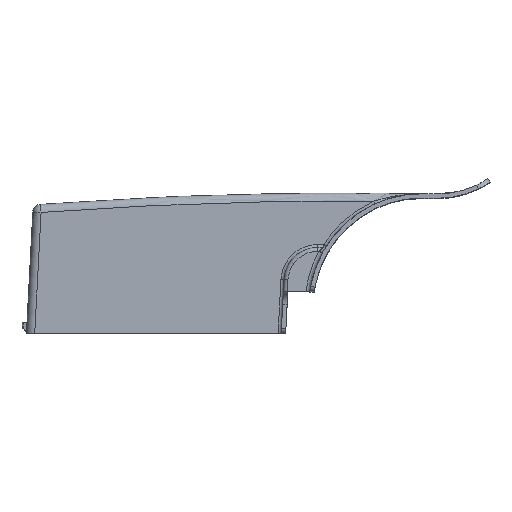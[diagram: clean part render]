
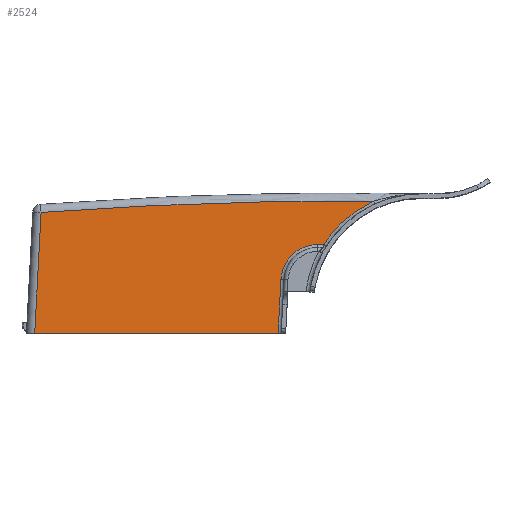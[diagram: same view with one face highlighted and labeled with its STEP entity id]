
A CAD part, top view. The second image highlights one B-rep face of the part: STEP entity #2524.
In plain terms, the highlighted planar face has unit normal (0, 0.026, 1).
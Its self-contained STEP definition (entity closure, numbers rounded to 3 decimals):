
#230 = VERTEX_POINT ( 'NONE', #7218 ) ;
#291 = DIRECTION ( 'NONE',  ( -0.052, -0.998, 0.026 ) ) ;
#491 = CARTESIAN_POINT ( 'NONE',  ( 32.978, 22.711, 15.458 ) ) ;
#530 = EDGE_CURVE ( 'NONE', #3966, #6627, #1132, .T. ) ;
#663 = CARTESIAN_POINT ( 'NONE',  ( 49.319, 36.169, 15.105 ) ) ;
#813 = EDGE_CURVE ( 'NONE', #7940, #2910, #1062, .T. ) ;
#823 = CARTESIAN_POINT ( 'NONE',  ( 49.478, 36.169, 15.105 ) ) ;
#871 = CARTESIAN_POINT ( 'NONE',  ( 50.65, 37.992, 15.058 ) ) ;
#943 = CARTESIAN_POINT ( 'NONE',  ( -30.569, 2., 16. ) ) ;
#966 = ORIENTED_EDGE ( 'NONE', *, *, #5689, .F. ) ;
#1019 = ORIENTED_EDGE ( 'NONE', *, *, #4416, .F. ) ;
#1062 = LINE ( 'NONE', #6284, #3028 ) ;
#1132 = LINE ( 'NONE', #3688, #4835 ) ;
#1206 = CARTESIAN_POINT ( 'NONE',  ( 34.186, 27.954, 15.32 ) ) ;
#1419 = CARTESIAN_POINT ( 'NONE',  ( 49.489, 36.169, 15.105 ) ) ;
#1463 = CARTESIAN_POINT ( 'NONE',  ( 53.204, 41.429, 14.968 ) ) ;
#1514 = EDGE_CURVE ( 'NONE', #7354, #230, #4063, .T. ) ;
#1531 = CARTESIAN_POINT ( 'NONE',  ( 31.892, 2., 16. ) ) ;
#1577 = ORIENTED_EDGE ( 'NONE', *, *, #8186, .F. ) ;
#1647 = CARTESIAN_POINT ( 'NONE',  ( 32.978, 22.711, 15.458 ) ) ;
#1796 = CARTESIAN_POINT ( 'NONE',  ( 33.29, 25.393, 15.387 ) ) ;
#1946 = AXIS2_PLACEMENT_3D ( 'NONE', #7415, #3625, #2993 ) ;
#2045 = CARTESIAN_POINT ( 'NONE',  ( 48.809, 36.169, 15.105 ) ) ;
#2154 = CARTESIAN_POINT ( 'NONE',  ( 0.661, 2., 16. ) ) ;
#2417 = CARTESIAN_POINT ( 'NONE',  ( 35.547, 30.29, 15.259 ) ) ;
#2524 = ADVANCED_FACE ( 'NONE', ( #7494 ), #4963, .T. ) ;
#2673 = CARTESIAN_POINT ( 'NONE',  ( 49.474, 36.169, 15.105 ) ) ;
#2871 = ORIENTED_EDGE ( 'NONE', *, *, #813, .F. ) ;
#2910 = VERTEX_POINT ( 'NONE', #3974 ) ;
#2953 = ORIENTED_EDGE ( 'NONE', *, *, #3312, .T. ) ;
#2978 = CARTESIAN_POINT ( 'NONE',  ( -61.799, 2., 16. ) ) ;
#2993 = DIRECTION ( 'NONE',  ( -0.075, 0.997, -0.026 ) ) ;
#3009 = CARTESIAN_POINT ( 'NONE',  ( 46.246, 36.169, 15.105 ) ) ;
#3026 = EDGE_CURVE ( 'NONE', #230, #8131, #4280, .T. ) ;
#3028 = VECTOR ( 'NONE', #4253, 1000. ) ;
#3084 = CARTESIAN_POINT ( 'NONE',  ( 44.46, 35.996, 15.11 ) ) ;
#3109 = ORIENTED_EDGE ( 'NONE', *, *, #1514, .F. ) ;
#3121 = AXIS2_PLACEMENT_3D ( 'NONE', #6107, #7400, #5514 ) ;
#3122 = ORIENTED_EDGE ( 'NONE', *, *, #530, .F. ) ;
#3263 = CARTESIAN_POINT ( 'NONE',  ( 49.489, 36.169, 15.105 ) ) ;
#3303 = CARTESIAN_POINT ( 'NONE',  ( 49.149, 36.169, 15.105 ) ) ;
#3312 = EDGE_CURVE ( 'NONE', #7940, #4255, #3598, .T. ) ;
#3384 = CARTESIAN_POINT ( 'NONE',  ( 49.465, 36.169, 15.105 ) ) ;
#3504 = CARTESIAN_POINT ( 'NONE',  ( 31.892, 2., 16. ) ) ;
#3585 = CARTESIAN_POINT ( 'NONE',  ( 32.422, 12.121, 15.735 ) ) ;
#3598 = B_SPLINE_CURVE_WITH_KNOTS ( 'NONE', 3,
 ( #4176, #943, #2154, #1531 ),
 .UNSPECIFIED., .F., .F.,
 ( 4, 4 ),
 ( 0., 1. ),
 .UNSPECIFIED. ) ;
#3601 = CARTESIAN_POINT ( 'NONE',  ( 47.157, 36.169, 15.105 ) ) ;
#3625 = DIRECTION ( 'NONE',  ( 0., -0.026, -1. ) ) ;
#3688 = CARTESIAN_POINT ( 'NONE',  ( 32.978, 22.711, 15.458 ) ) ;
#3892 = CARTESIAN_POINT ( 'NONE',  ( 47.546, 36.169, 15.105 ) ) ;
#3895 = CARTESIAN_POINT ( 'NONE',  ( 66.689, 51.944, 14.692 ) ) ;
#3934 = CARTESIAN_POINT ( 'NONE',  ( 49.459, 36.169, 15.105 ) ) ;
#3966 = VERTEX_POINT ( 'NONE', #491 ) ;
#3974 = CARTESIAN_POINT ( 'NONE',  ( -59.361, 48.543, 14.781 ) ) ;
#4012 = CARTESIAN_POINT ( 'NONE',  ( 49.489, 36.169, 15.105 ) ) ;
#4063 = B_SPLINE_CURVE_WITH_KNOTS ( 'NONE', 3,
 ( #4526, #3895, #6639, #6479, #1463, #871, #4012 ),
 .UNSPECIFIED., .F., .F.,
 ( 4, 1, 1, 1, 4 ),
 ( 0., 0.25, 0.5, 0.75, 1. ),
 .UNSPECIFIED. ) ;
#4176 = CARTESIAN_POINT ( 'NONE',  ( -61.799, 2., 16. ) ) ;
#4253 = DIRECTION ( 'NONE',  ( 0.052, 0.998, -0.026 ) ) ;
#4255 = VERTEX_POINT ( 'NONE', #3504 ) ;
#4280 = B_SPLINE_CURVE_WITH_KNOTS ( 'NONE', 3,
 ( #3263, #1419, #7094, #823, #2673, #3384, #3934, #4681, #7251, #663, #3303, #2045, #6512, #3892, #6476 ),
 .UNSPECIFIED., .F., .F.,
 ( 4, 2, 2, 2, 1, 1, 1, 1, 1, 4 ),
 ( 0., 0.004, 0.008, 0.016, 0.031, 0.063, 0.125, 0.25, 0.5, 1. ),
 .UNSPECIFIED. ) ;
#4416 = EDGE_CURVE ( 'NONE', #6627, #4255, #6062, .T. ) ;
#4526 = CARTESIAN_POINT ( 'NONE',  ( 68.655, 52.84, 14.669 ) ) ;
#4586 = ORIENTED_EDGE ( 'NONE', *, *, #3026, .F. ) ;
#4681 = CARTESIAN_POINT ( 'NONE',  ( 49.441, 36.169, 15.105 ) ) ;
#4835 = VECTOR ( 'NONE', #6268, 1000. ) ;
#4963 = PLANE ( 'NONE',  #3121 ) ;
#5185 = CARTESIAN_POINT ( 'NONE',  ( 68.655, 52.84, 14.669 ) ) ;
#5369 = CARTESIAN_POINT ( 'NONE',  ( 47.157, 36.169, 15.105 ) ) ;
#5514 = DIRECTION ( 'NONE',  ( 1., 0., 0. ) ) ;
#5534 = EDGE_LOOP ( 'NONE', ( #966, #2871, #2953, #1019, #3122, #1577, #4586, #3109 ) ) ;
#5542 = CARTESIAN_POINT ( 'NONE',  ( 33.025, 23.622, 15.434 ) ) ;
#5585 = CIRCLE ( 'NONE', #1946, 1561.079 ) ;
#5588 = CARTESIAN_POINT ( 'NONE',  ( 41.856, 35.234, 15.13 ) ) ;
#5627 = CARTESIAN_POINT ( 'NONE',  ( 37.323, 32.329, 15.206 ) ) ;
#5689 = EDGE_CURVE ( 'NONE', #2910, #7354, #5585, .T. ) ;
#5733 = B_SPLINE_CURVE_WITH_KNOTS ( 'NONE', 3,
 ( #3601, #3009, #3084, #5588, #6223, #5627, #2417, #1206, #1796, #5542, #8107 ),
 .UNSPECIFIED., .F., .F.,
 ( 4, 1, 1, 1, 1, 1, 1, 1, 4 ),
 ( 0., 0.125, 0.25, 0.375, 0.5, 0.625, 0.75, 0.875, 1. ),
 .UNSPECIFIED. ) ;
#6062 = LINE ( 'NONE', #1647, #6523 ) ;
#6107 = CARTESIAN_POINT ( 'NONE',  ( -65.96, 2., 16. ) ) ;
#6223 = CARTESIAN_POINT ( 'NONE',  ( 39.452, 33.996, 15.162 ) ) ;
#6268 = DIRECTION ( 'NONE',  ( -0.052, -0.998, 0.026 ) ) ;
#6284 = CARTESIAN_POINT ( 'NONE',  ( -61.799, 2., 16. ) ) ;
#6476 = CARTESIAN_POINT ( 'NONE',  ( 47.157, 36.169, 15.105 ) ) ;
#6479 = CARTESIAN_POINT ( 'NONE',  ( 57.76, 46.012, 14.848 ) ) ;
#6512 = CARTESIAN_POINT ( 'NONE',  ( 48.129, 36.169, 15.105 ) ) ;
#6523 = VECTOR ( 'NONE', #291, 1000. ) ;
#6627 = VERTEX_POINT ( 'NONE', #3585 ) ;
#6639 = CARTESIAN_POINT ( 'NONE',  ( 62.93, 49.889, 14.746 ) ) ;
#7094 = CARTESIAN_POINT ( 'NONE',  ( 49.486, 36.169, 15.105 ) ) ;
#7218 = CARTESIAN_POINT ( 'NONE',  ( 49.489, 36.169, 15.105 ) ) ;
#7251 = CARTESIAN_POINT ( 'NONE',  ( 49.404, 36.169, 15.105 ) ) ;
#7354 = VERTEX_POINT ( 'NONE', #5185 ) ;
#7400 = DIRECTION ( 'NONE',  ( 0., 0.026, 1. ) ) ;
#7415 = CARTESIAN_POINT ( 'NONE',  ( 56.989, -1507.66, 55.532 ) ) ;
#7494 = FACE_OUTER_BOUND ( 'NONE', #5534, .T. ) ;
#7940 = VERTEX_POINT ( 'NONE', #2978 ) ;
#8107 = CARTESIAN_POINT ( 'NONE',  ( 32.978, 22.711, 15.458 ) ) ;
#8131 = VERTEX_POINT ( 'NONE', #5369 ) ;
#8186 = EDGE_CURVE ( 'NONE', #8131, #3966, #5733, .T. ) ;
